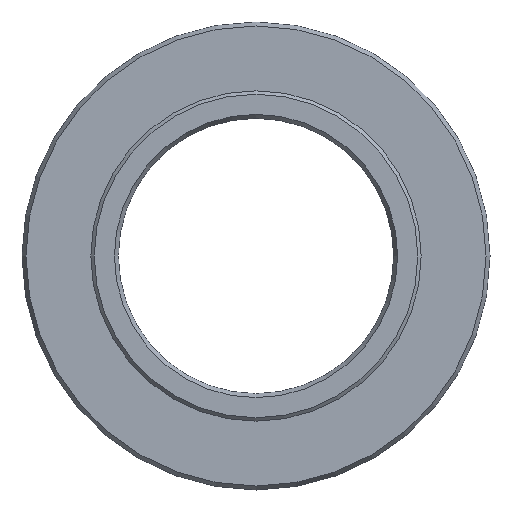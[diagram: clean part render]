
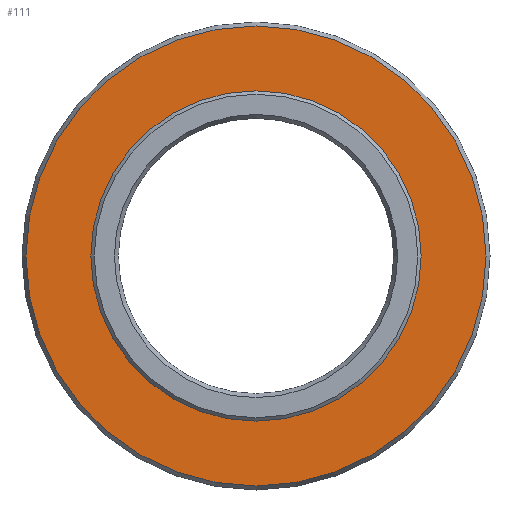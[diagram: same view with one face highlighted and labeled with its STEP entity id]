
A CAD part, left-side view. The second image highlights one B-rep face of the part: STEP entity #111.
In plain terms, the highlighted planar face has unit normal (-1, 0, 0).
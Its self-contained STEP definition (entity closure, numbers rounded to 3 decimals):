
#97=PLANE('',#323);
#111=ADVANCED_FACE('',(#144,#145),#97,.T.);
#144=FACE_BOUND('',#175,.T.);
#145=FACE_BOUND('',#176,.T.);
#175=EDGE_LOOP('',(#214));
#176=EDGE_LOOP('',(#215));
#214=ORIENTED_EDGE('',*,*,#279,.T.);
#215=ORIENTED_EDGE('',*,*,#280,.T.);
#258=VERTEX_POINT('',#461);
#259=VERTEX_POINT('',#463);
#279=EDGE_CURVE('',#258,#258,#298,.T.);
#280=EDGE_CURVE('',#259,#259,#299,.T.);
#298=CIRCLE('',#321,33.423);
#299=CIRCLE('',#322,24.);
#321=AXIS2_PLACEMENT_3D('',#460,#369,#370);
#322=AXIS2_PLACEMENT_3D('',#462,#371,#372);
#323=AXIS2_PLACEMENT_3D('',#464,#373,#374);
#369=DIRECTION('',(-1.,0.,0.));
#370=DIRECTION('',(0.,0.,1.));
#371=DIRECTION('',(1.,0.,0.));
#372=DIRECTION('',(0.,0.,-1.));
#373=DIRECTION('',(-1.,0.,0.));
#374=DIRECTION('',(0.,0.,1.));
#460=CARTESIAN_POINT('',(0.,0.,0.));
#461=CARTESIAN_POINT('',(0.,0.,33.423));
#462=CARTESIAN_POINT('',(0.,0.,0.));
#463=CARTESIAN_POINT('',(0.,0.,-24.));
#464=CARTESIAN_POINT('',(0.,34.,0.));
